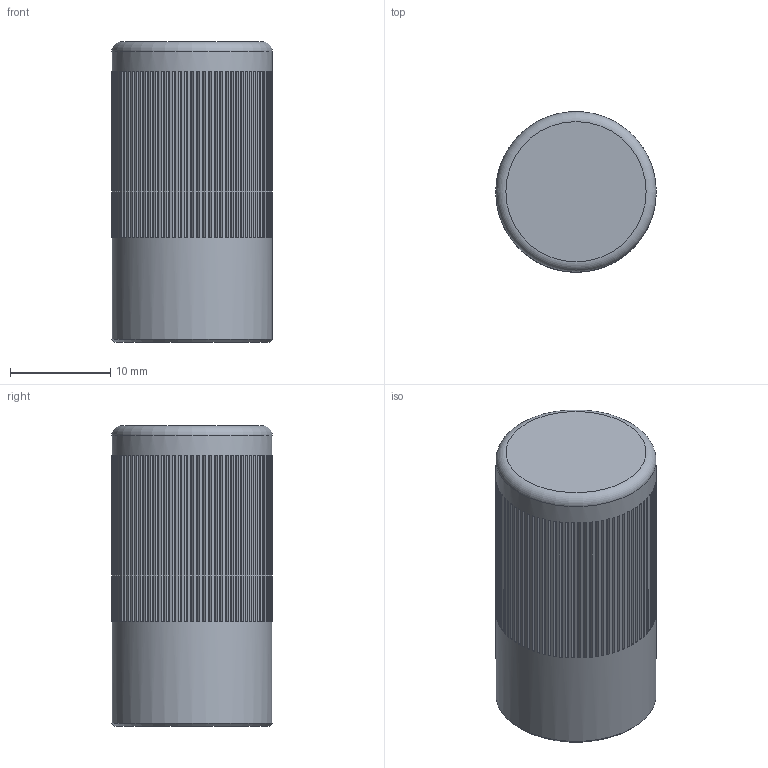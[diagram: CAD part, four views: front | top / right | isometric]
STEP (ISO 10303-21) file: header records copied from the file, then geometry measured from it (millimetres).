
FILE_DESCRIPTION(('Open CASCADE Model'),'2;1');
FILE_NAME('FL-PIN-knob-16','2026-10-19T21:24:07',('Author'),( 'Open CASCADE'),'Open CASCADE STEP processor 8.0','build123d', 'Unknown');
FILE_SCHEMA(('AUTOMOTIVE_DESIGN { 1 0 10303 214 1 1 1 1 }'));
Length unit declared in the file: millimetre
Products named in the file (2): FL-PIN-knob-16; brass_FL-PIN16__k
Assembly tree (1 placements, depth 2):
  FL-PIN-knob-16
    brass_FL-PIN16__k
Bounding box: 16 x 16 x 30 mm (x, y, z)
Volume: 5877.8 mm3; surface area: 2174.9 mm2
Topology: 1 solids, 1 shells, 345 faces, 772 edges, 514 vertices
Faces by surface type: plane 340, cylinder 3, cone 1, torus 1
Full cylindrical faces by diameter (mm): 3.3 x1, 5.1 x1, 16 x1
Entity records: 18601 total; most frequent: CARTESIAN_POINT 4189, DIRECTION 2177, ORIENTED_EDGE 1544, PCURVE 1544, DEFINITIONAL_REPRESENTATION 1544, B_SPLINE_CURVE_WITH_KNOTS 1012, LINE 949, VECTOR 949
